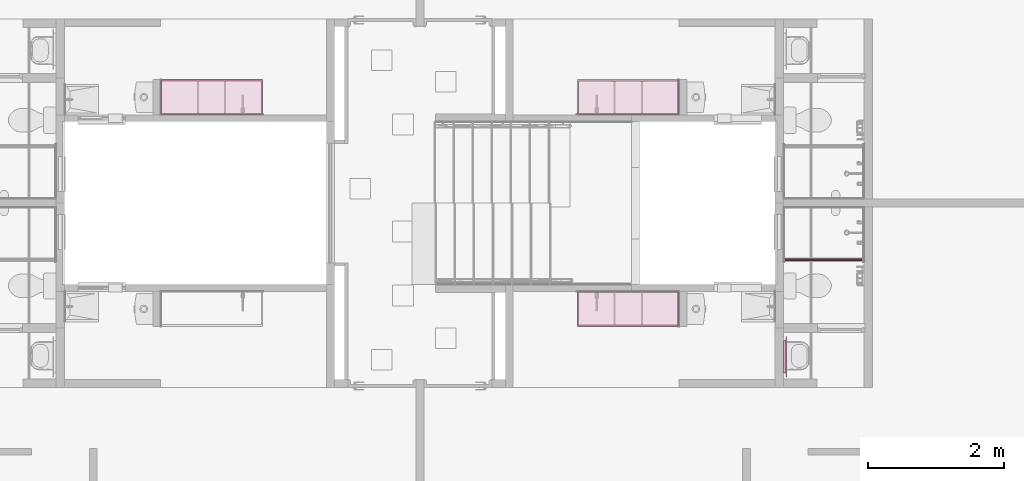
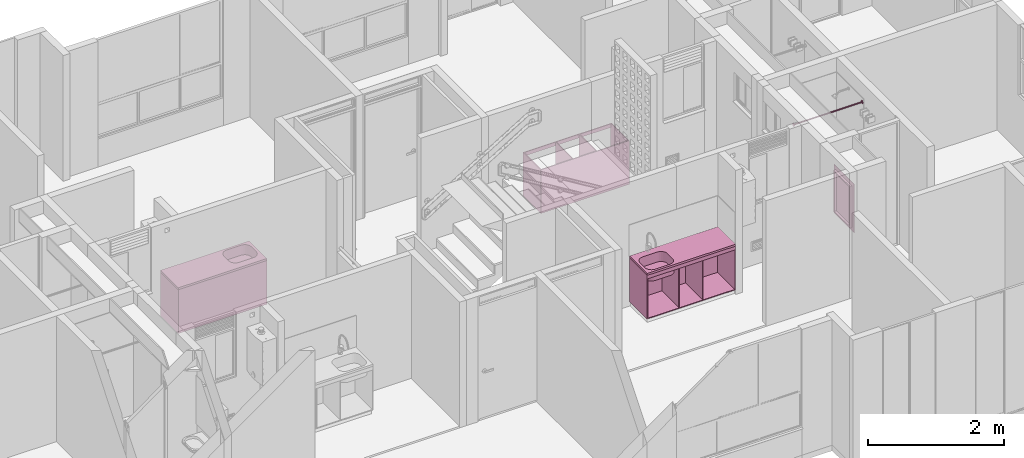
# One storey, part 43 of 48: 7 furniture elements.
"""IFC4 building model written with IfcOpenShell, lengths in metres."""

from ifc_helpers import new_model, entity, si_unit, converted_unit, derived_unit, direction, frame, origin, place, context, subcontext, project, spatial, arc, indexed_curve, outline, extrude, polygons, source, transform, mapped, material, constituent, constituent_set, type_object, type_shapes, element, save


model = new_model("IFC4")

# Units and contexts
model_context = context("Model", 3, precision=1e-05, world=origin(), true_north=direction((6.123031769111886e-17, 1.0)))
body_context = subcontext(model_context, "Body", "Model", "MODEL_VIEW")
ifc_project = project(units=[si_unit("LENGTHUNIT", "METRE"), si_unit("AREAUNIT", "SQUARE_METRE"), si_unit("VOLUMEUNIT", "CUBIC_METRE"), converted_unit("PLANEANGLEUNIT", "DEGREE", entity("IfcRatioMeasure", 0.017453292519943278), si_unit("PLANEANGLEUNIT", "RADIAN"), dimensions=[0, 0, 0, 0, 0, 0, 0]), si_unit("MASSUNIT", "GRAM", prefix="KILO"), derived_unit("MASSDENSITYUNIT", [(si_unit("MASSUNIT", "GRAM", prefix="KILO"), 1), (si_unit("LENGTHUNIT", "METRE"), -3)]), derived_unit("IONCONCENTRATIONUNIT", [(si_unit("MASSUNIT", "GRAM", prefix="KILO"), 1), (si_unit("LENGTHUNIT", "METRE"), -3)]), derived_unit("MOMENTOFINERTIAUNIT", [(si_unit("LENGTHUNIT", "METRE"), 4)]), si_unit("TIMEUNIT", "SECOND"), si_unit("FREQUENCYUNIT", "HERTZ"), si_unit("THERMODYNAMICTEMPERATUREUNIT", "DEGREE_CELSIUS"), derived_unit("THERMALTRANSMITTANCEUNIT", [(si_unit("MASSUNIT", "GRAM", prefix="KILO"), 1), (si_unit("THERMODYNAMICTEMPERATUREUNIT", "KELVIN"), -1), (si_unit("TIMEUNIT", "SECOND"), -3)]), derived_unit("THERMALCONDUCTANCEUNIT", [(si_unit("MASSUNIT", "GRAM", prefix="KILO"), 1), (si_unit("THERMODYNAMICTEMPERATUREUNIT", "KELVIN"), -1), (si_unit("TIMEUNIT", "SECOND"), -3), (si_unit("LENGTHUNIT", "METRE"), 1)]), derived_unit("VOLUMETRICFLOWRATEUNIT", [(si_unit("LENGTHUNIT", "METRE"), 3), (si_unit("TIMEUNIT", "SECOND"), -1)]), derived_unit("MASSFLOWRATEUNIT", [(si_unit("MASSUNIT", "GRAM", prefix="KILO"), 1), (si_unit("TIMEUNIT", "SECOND"), -1)]), derived_unit("ROTATIONALFREQUENCYUNIT", [(si_unit("TIMEUNIT", "SECOND"), -1)]), si_unit("ELECTRICCURRENTUNIT", "AMPERE"), si_unit("ELECTRICVOLTAGEUNIT", "VOLT"), si_unit("POWERUNIT", "WATT"), si_unit("FORCEUNIT", "NEWTON", prefix="KILO"), si_unit("ILLUMINANCEUNIT", "LUX"), si_unit("LUMINOUSFLUXUNIT", "LUMEN"), si_unit("LUMINOUSINTENSITYUNIT", "CANDELA"), derived_unit("USERDEFINED", [(si_unit("MASSUNIT", "GRAM", prefix="KILO"), -1), (si_unit("LENGTHUNIT", "METRE"), -2), (si_unit("TIMEUNIT", "SECOND"), 3), (si_unit("LUMINOUSFLUXUNIT", "LUMEN"), 1)]), derived_unit("USERDEFINED", [(si_unit("MASSUNIT", "GRAM", prefix="KILO"), 1), (si_unit("TIMEUNIT", "SECOND"), -3), (si_unit("LENGTHUNIT", "METRE"), 3), (si_unit("ELECTRICCURRENTUNIT", "AMPERE"), -2)]), derived_unit("SOUNDPOWERUNIT", [(si_unit("MASSUNIT", "GRAM", prefix="KILO"), 1), (si_unit("TIMEUNIT", "SECOND"), -3), (si_unit("LENGTHUNIT", "METRE"), 2)]), derived_unit("SOUNDPRESSUREUNIT", [(si_unit("MASSUNIT", "GRAM", prefix="KILO"), 1), (si_unit("LENGTHUNIT", "METRE"), -1), (si_unit("TIMEUNIT", "SECOND"), -2)]), derived_unit("LINEARVELOCITYUNIT", [(si_unit("LENGTHUNIT", "METRE"), 1), (si_unit("TIMEUNIT", "SECOND"), -1)]), si_unit("PRESSUREUNIT", "PASCAL"), derived_unit("USERDEFINED", [(si_unit("MASSUNIT", "GRAM", prefix="KILO"), 1), (si_unit("LENGTHUNIT", "METRE"), -2), (si_unit("TIMEUNIT", "SECOND"), -2)]), derived_unit("LINEARFORCEUNIT", [(si_unit("MASSUNIT", "GRAM", prefix="KILO"), 1), (si_unit("TIMEUNIT", "SECOND"), -2)]), derived_unit("PLANARFORCEUNIT", [(si_unit("MASSUNIT", "GRAM", prefix="KILO"), 1), (si_unit("LENGTHUNIT", "METRE"), -1), (si_unit("TIMEUNIT", "SECOND"), -2)]), derived_unit("SPECIFICHEATCAPACITYUNIT", [(si_unit("THERMODYNAMICTEMPERATUREUNIT", "KELVIN"), -1), (si_unit("LENGTHUNIT", "METRE"), 2), (si_unit("TIMEUNIT", "SECOND"), -2)]), derived_unit("HEATINGVALUEUNIT", [(si_unit("LENGTHUNIT", "METRE"), 2), (si_unit("TIMEUNIT", "SECOND"), -2)]), derived_unit("VAPORPERMEABILITYUNIT", [(si_unit("LENGTHUNIT", "METRE"), -1), (si_unit("TIMEUNIT", "SECOND"), 1)]), derived_unit("DYNAMICVISCOSITYUNIT", [(si_unit("MASSUNIT", "GRAM", prefix="KILO"), 1), (si_unit("TIMEUNIT", "SECOND"), -1), (si_unit("LENGTHUNIT", "METRE"), -1)]), derived_unit("THERMALEXPANSIONCOEFFICIENTUNIT", [(si_unit("THERMODYNAMICTEMPERATUREUNIT", "KELVIN"), -1)]), derived_unit("MODULUSOFELASTICITYUNIT", [(si_unit("MASSUNIT", "GRAM", prefix="KILO"), 1), (si_unit("LENGTHUNIT", "METRE"), -1), (si_unit("TIMEUNIT", "SECOND"), -2)]), derived_unit("ISOTHERMALMOISTURECAPACITYUNIT", [(si_unit("LENGTHUNIT", "METRE"), 3), (si_unit("MASSUNIT", "GRAM", prefix="KILO"), -1)]), derived_unit("MOISTUREDIFFUSIVITYUNIT", [(si_unit("TIMEUNIT", "SECOND"), -1), (si_unit("LENGTHUNIT", "METRE"), 2)])], contexts=[model_context])

# Site, building, storey
site_placement = place(None, origin())
site = spatial("IfcSite", under=ifc_project, at=site_placement, Name="Default", CompositionType="ELEMENT")
building_placement = place(site_placement, origin())
building = spatial("IfcBuilding", under=site, at=building_placement, CompositionType="ELEMENT")
storey_placement = place(building_placement, frame((0.0, 0.0, 9.40000000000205)))
storey = spatial("IfcBuildingStorey", under=building, at=storey_placement, Name="Nivel 5", CompositionType="ELEMENT", Elevation=9.40000000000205)

# Furniture
ifc_material_1 = material(Name="Aluminio", Category="Materials")
ifc_constituent_1 = constituent(ifc_material_1, Name="Aluminio", Category="Materials")
ifc_material_2 = material(Name="ESPEJO", Category="Materials")
ifc_constituent_2 = constituent(ifc_material_2, Name="ESPEJO", Category="Materials")
ifc_constituent_set_1 = constituent_set(constituents=[ifc_constituent_1, ifc_constituent_2])
ifc_constituent_3 = constituent(ifc_material_1, Name="Aluminio", Category="Materials")
ifc_constituent_4 = constituent(ifc_material_2, Name="ESPEJO", Category="Materials")
ifc_constituent_set_2 = constituent_set(constituents=[ifc_constituent_3, ifc_constituent_4])
furniture_type_1 = type_object("IfcFurnitureType", Name="E2050 - Espejo:E2050 - 0.60m x 0.87m - Espejo", AssemblyPlace="NOTDEFINED", PredefinedType="NOTDEFINED", material=ifc_constituent_set_2)
shared_shape_1 = source(origin(), body_context, "Body", "SweptSolid", [
    extrude(outline(indexed_curve([(-0.3749999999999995, -0.2399999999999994), (0.37499999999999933, -0.23999999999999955), (0.3749999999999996, 0.2399999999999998), (-0.3749999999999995, 0.23999999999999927), (-0.3749999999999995, -0.2399999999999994)], self_intersect=False), holes=[indexed_curve([(-0.34999999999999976, 0.21499999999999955), (0.34999999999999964, 0.21499999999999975), (0.34999999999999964, -0.21499999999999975), (-0.34999999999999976, -0.21499999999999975), (-0.34999999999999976, 0.21499999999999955)], self_intersect=False)]), frame((0.12499999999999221, -0.09999999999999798, 1.485), z_axis=(0.0, 1.0, 0.0), x_axis=(0.0, 0.0, -1.0)), (0.0, 0.0, 1.0), 0.037500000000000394),
    extrude(outline(indexed_curve([(-0.30000000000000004, -0.00350000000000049), (0.30000000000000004, -0.00350000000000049), (0.30000000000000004, 0.00350000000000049), (-0.30000000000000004, 0.00350000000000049), (-0.30000000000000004, -0.00350000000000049)], self_intersect=False)), frame((0.1249999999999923, -0.10350000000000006, 1.05), z_axis=(0.0, 0.0, 1.0), x_axis=(-1.0, 0.0, 0.0)), (0.0, 0.0, 1.0), 0.87),
])
type_shapes(furniture_type_1, [shared_shape_1])
furniture_1_placement = place(storey_placement, frame((14.620000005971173, -8.815000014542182, -0.020000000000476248), z_axis=(0.0, 0.0, 1.0), x_axis=(0.0, 1.0, 0.0)))
element("IfcFurniture", 1, at=furniture_1_placement, inside=storey, type_object=furniture_type_1, material=ifc_constituent_set_1, Name="E2050 - Espejo:E2050 - 0.60m x 0.87m - Espejo", ObjectType="E2050 - Espejo:E2050 - 0.60m x 0.87m - Espejo", PredefinedType="NOTDEFINED", context=body_context, shape_type="MappedRepresentation", body=[
    mapped(shared_shape_1, transform((0.0, 0.0, 0.0), scale=1.0)),
])

# Space
space_1_placement = place(storey_placement, origin())
space_1 = spatial("IfcSpace", under=storey, at=space_1_placement, Name="283", CompositionType="ELEMENT", PredefinedType="SPACE")

# Furniture
ifc_material_3 = material(Name="<Unnamed>")
furniture_type_2 = type_object("IfcFurnitureType", Name="Barra baño:E2050- Barra Baño- Acero inoxidable", AssemblyPlace="NOTDEFINED", PredefinedType="NOTDEFINED", material=ifc_material_3)
shared_shape_2 = source(origin(), body_context, "Body", "SweptSolid", [
    extrude(outline(indexed_curve([(-0.025, 2.707167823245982e-16), (-2.9325041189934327e-16, -0.025), (0.025, 0.0), (7.924642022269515e-17, 0.025)], segments=[arc(1, 2, 3), arc(3, 4, 1)], self_intersect=False)), frame((-1.1599989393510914, 0.0, 1.8000000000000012), z_axis=(1.0, 0.0, 0.0), x_axis=(0.0, -1.0, 0.0)), (0.0, 0.0, 1.0), 0.005000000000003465),
    extrude(outline(indexed_curve([(-0.03, 2.707167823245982e-16), (-3.2525514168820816e-16, -0.029999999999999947), (0.03, 0.0), (9.509570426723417e-17, 0.029999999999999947)], segments=[arc(1, 2, 3), arc(3, 4, 1)], self_intersect=False)), frame((-1.164998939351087, 0.0, 1.8000000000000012), z_axis=(1.0, 0.0, 0.0), x_axis=(0.0, -1.0, 0.0)), (0.0, 0.0, 1.0), 0.0049999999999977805),
    extrude(outline(indexed_curve([(-0.0125, 0.0), (-8.001182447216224e-17, -0.012499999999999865), (0.0125, 0.0), (3.9623210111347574e-17, 0.012499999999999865)], segments=[arc(1, 2, 3), arc(3, 4, 1)], self_intersect=False)), frame((-1.1549989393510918, 0.0, 1.7999999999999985), z_axis=(1.0, 0.0, 0.0), x_axis=(0.0, -1.0, 0.0)), (0.0, 0.0, 1.0), 1.149998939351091),
    extrude(outline(indexed_curve([(-0.025, 0.0), (-1.600236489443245e-16, -0.025000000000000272), (0.025, 0.0), (-5.398034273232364e-17, 0.02499999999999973)], segments=[arc(1, 2, 3), arc(3, 4, 1)], self_intersect=False)), frame((-0.005000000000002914, 0.0, 1.7999999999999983), z_axis=(1.0, 0.0, 0.0), x_axis=(0.0, -1.0, 0.0)), (0.0, 0.0, 1.0), 0.005000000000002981),
    extrude(outline(indexed_curve([(-0.03, 0.0), (-1.9202837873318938e-16, -0.030000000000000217), (0.03, 0.0), (-3.813105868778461e-17, 0.029999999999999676)], segments=[arc(1, 2, 3), arc(3, 4, 1)], self_intersect=False)), frame((0.0, 0.0, 1.7999999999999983), z_axis=(1.0, 0.0, 0.0), x_axis=(0.0, -1.0, 0.0)), (0.0, 0.0, 1.0), 0.00499999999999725),
])
type_shapes(furniture_type_2, [shared_shape_2])
furniture_2_placement = place(space_1_placement, frame((14.692500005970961, -7.260000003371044, 0.1299999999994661), z_axis=(0.0, 0.0, 1.0), x_axis=(-1.0, 0.0, 0.0)))
element("IfcFurniture", 2, at=furniture_2_placement, inside=space_1, type_object=furniture_type_2, material=ifc_material_3, Name="Barra baño:E2050- Barra Baño- Acero inoxidable", ObjectType="Barra baño:E2050- Barra Baño- Acero inoxidable", PredefinedType="NOTDEFINED", context=body_context, shape_type="MappedRepresentation", body=[
    mapped(shared_shape_2, transform((0.0, 0.0, 0.0), scale=1.0)),
])

# Space
space_2_placement = place(storey_placement, origin())
space_2 = spatial("IfcSpace", under=storey, at=space_2_placement, Name="279", CompositionType="ELEMENT", PredefinedType="SPACE")

# Furniture
ifc_material_4 = material(Name="mueble cocina", Category="Materials")
furniture_type_3 = type_object("IfcFurnitureType", Name="E2010 - Mueble bajo de cocina - Madera:E2010 - 1.50 x 0.52 - Mueble bajo de cocina - Madera", AssemblyPlace="NOTDEFINED", PredefinedType="NOTDEFINED", material=ifc_material_4)
shared_shape_3 = source(origin(), body_context, "Body", "SweptSolid", [
    extrude(outline(indexed_curve([(-0.007500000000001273, -0.7349999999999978), (0.007499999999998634, -0.7349999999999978), (0.007500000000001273, 0.7349999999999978), (-0.007499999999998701, 0.7349999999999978), (-0.007500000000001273, -0.7349999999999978)], self_intersect=False)), frame((0.04470032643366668, -0.5125000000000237, 0.8149999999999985), z_axis=(0.0, 0.0, 1.0), x_axis=(0.0, -1.0, 0.0)), (0.0, 0.0, 1.0), 0.06500000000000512),
    extrude(outline(indexed_curve([(-0.2600000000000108, -0.7499999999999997), (0.260000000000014, -0.7499999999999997), (0.2600000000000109, 0.7500000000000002), (-0.2600000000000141, 0.7499999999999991), (-0.2600000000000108, -0.7499999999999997)], self_intersect=False)), frame((0.04470032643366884, -0.2600000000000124, 0.09500000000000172), z_axis=(0.0, 0.0, 1.0), x_axis=(0.0, -1.0, 0.0)), (0.0, 0.0, 1.0), 0.0149999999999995),
    extrude(outline(indexed_curve([(-0.007500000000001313, -0.7500000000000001), (0.007499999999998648, -0.7500000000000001), (0.0075000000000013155, 0.7500000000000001), (-0.007499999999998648, 0.7500000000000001), (-0.007500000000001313, -0.7500000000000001)], self_intersect=False)), frame((0.04470032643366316, -0.00749999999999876, 0.11000000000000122), z_axis=(0.0, 0.0, 1.0), x_axis=(0.0, -1.0, 0.0)), (0.0, 0.0, 1.0), 0.7700000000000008),
    extrude(outline(indexed_curve([(-0.007500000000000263, -0.24500000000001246), (0.007499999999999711, -0.24500000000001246), (0.007500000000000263, 0.24500000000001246), (-0.007499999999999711, 0.24500000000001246), (-0.007500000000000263, -0.24500000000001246)], self_intersect=False)), frame((-0.1552996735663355, -0.2600000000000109, 0.11000000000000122), z_axis=(0.0, 0.0, 1.0), x_axis=(-1.0, 0.0, 0.0)), (0.0, 0.0, 1.0), 0.7700000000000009),
    extrude(outline(indexed_curve([(-0.007499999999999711, -0.24500000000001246), (0.007500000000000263, -0.24500000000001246), (0.007499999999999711, 0.24500000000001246), (-0.007500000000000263, 0.24500000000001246), (-0.007499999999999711, -0.24500000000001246)], self_intersect=False)), frame((0.24470032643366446, -0.26000000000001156, 0.11000000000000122), z_axis=(0.0, 0.0, 1.0), x_axis=(-1.0, 0.0, 0.0)), (0.0, 0.0, 1.0), 0.7700000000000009),
    extrude(outline(indexed_curve([(-0.00750000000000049, -0.2525000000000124), (0.0074999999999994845, -0.25250000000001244), (0.007500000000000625, 0.2525000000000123), (-0.007499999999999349, 0.2525000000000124), (-0.00750000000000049, -0.2525000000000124)], self_intersect=False)), frame((0.7872003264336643, -0.2675000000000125, 0.11000000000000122), z_axis=(0.0, 0.0, 1.0), x_axis=(-1.0, 0.0, 0.0)), (0.0, 0.0, 1.0), 0.7700000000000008),
    extrude(outline(indexed_curve([(-0.007499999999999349, -0.2525000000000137), (0.007500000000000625, -0.2525000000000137), (0.0074999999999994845, 0.25250000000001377), (-0.00750000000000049, 0.2525000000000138), (-0.007499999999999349, -0.2525000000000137)], self_intersect=False)), frame((-0.697799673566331, -0.2675000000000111, 0.11000000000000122), z_axis=(0.0, 0.0, 1.0), x_axis=(-1.0, 0.0, 0.0)), (0.0, 0.0, 1.0), 0.7700000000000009),
])
type_shapes(furniture_type_3, [shared_shape_3])
furniture_3_placement = place(space_2_placement, frame((12.437200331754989, -5.125000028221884, 0.014999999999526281), z_axis=(0.0, 0.0, 1.0), x_axis=(-1.0, 0.0, 0.0)))
element("IfcFurniture", 3, at=furniture_3_placement, inside=space_2, type_object=furniture_type_3, material=ifc_material_4, Name="E2010 - Mueble bajo de cocina - Madera:E2010 - 1.50 x 0.52 - Mueble bajo de cocina - Madera", ObjectType="E2010 - Mueble bajo de cocina - Madera:E2010 - 1.50 x 0.52 - Mueble bajo de cocina - Madera", PredefinedType="NOTDEFINED", context=body_context, shape_type="MappedRepresentation", body=[
    mapped(shared_shape_3, transform((0.0, 0.0, 0.0), scale=1.0)),
])

# Space
space_3_placement = place(storey_placement, origin())
space_3 = spatial("IfcSpace", under=storey, at=space_3_placement, Name="264", CompositionType="ELEMENT", PredefinedType="SPACE")

# Furniture
furniture_type_4 = type_object("IfcFurnitureType", Name="E2010 - Mueble bajo de cocina - Madera:E2010 - 1.50 x 0.52 - Mueble bajo de cocina - Madera", AssemblyPlace="NOTDEFINED", PredefinedType="NOTDEFINED", material=ifc_material_4)
shared_shape_4 = source(origin(), body_context, "Body", "SweptSolid", [
    extrude(outline(indexed_curve([(-0.7349999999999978, -0.007499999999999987), (0.7349999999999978, -0.007499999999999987), (0.7349999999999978, 0.007499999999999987), (-0.7349999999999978, 0.007499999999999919), (-0.7349999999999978, -0.007499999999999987)], self_intersect=False)), frame((0.04470032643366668, 0.5125000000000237, 0.8149999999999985)), (0.0, 0.0, 1.0), 0.06500000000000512),
    extrude(outline(indexed_curve([(-0.7499999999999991, -0.26000000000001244), (0.7499999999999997, -0.26000000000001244), (0.7499999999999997, 0.26000000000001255), (-0.7500000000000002, 0.26000000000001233), (-0.7499999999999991, -0.26000000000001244)], self_intersect=False)), frame((0.04470032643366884, 0.26000000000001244, 0.09500000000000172)), (0.0, 0.0, 1.0), 0.0149999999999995),
    extrude(outline(indexed_curve([(-0.7500000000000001, -0.007499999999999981), (0.7500000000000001, -0.007499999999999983), (0.7500000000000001, 0.007499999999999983), (-0.7500000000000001, 0.007499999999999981), (-0.7500000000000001, -0.007499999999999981)], self_intersect=False)), frame((0.04470032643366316, 0.00749999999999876, 0.11000000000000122)), (0.0, 0.0, 1.0), 0.7700000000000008),
    extrude(outline(indexed_curve([(-0.24500000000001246, -0.007499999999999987), (0.24500000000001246, -0.007499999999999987), (0.24500000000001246, 0.007499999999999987), (-0.24500000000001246, 0.007499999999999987), (-0.24500000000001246, -0.007499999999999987)], self_intersect=False)), frame((-0.1552996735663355, 0.2600000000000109, 0.11000000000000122), z_axis=(0.0, 0.0, 1.0), x_axis=(0.0, 1.0, 0.0)), (0.0, 0.0, 1.0), 0.7700000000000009),
    extrude(outline(indexed_curve([(-0.24500000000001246, -0.007499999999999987), (0.24500000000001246, -0.007499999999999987), (0.24500000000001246, 0.007499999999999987), (-0.24500000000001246, 0.007499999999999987), (-0.24500000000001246, -0.007499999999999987)], self_intersect=False)), frame((0.24470032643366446, 0.26000000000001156, 0.11000000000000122), z_axis=(0.0, 0.0, 1.0), x_axis=(0.0, 1.0, 0.0)), (0.0, 0.0, 1.0), 0.7700000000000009),
    extrude(outline(indexed_curve([(-0.25250000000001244, -0.007500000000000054), (0.2525000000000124, -0.007500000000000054), (0.2525000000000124, 0.007499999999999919), (-0.2525000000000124, 0.007499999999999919), (-0.25250000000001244, -0.007500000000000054)], self_intersect=False)), frame((0.7872003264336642, 0.2675000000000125, 0.11000000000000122), z_axis=(0.0, 0.0, 1.0), x_axis=(0.0, 1.0, 0.0)), (0.0, 0.0, 1.0), 0.7700000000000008),
    extrude(outline(indexed_curve([(-0.2525000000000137, -0.007500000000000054), (0.2525000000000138, -0.007500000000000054), (0.2525000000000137, 0.007499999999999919), (-0.2525000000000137, 0.007499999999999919), (-0.2525000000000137, -0.007500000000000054)], self_intersect=False)), frame((-0.6977996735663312, 0.2675000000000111, 0.11000000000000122), z_axis=(0.0, 0.0, 1.0), x_axis=(0.0, 1.0, 0.0)), (0.0, 0.0, 1.0), 0.7700000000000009),
])
type_shapes(furniture_type_4, [shared_shape_4])
furniture_4_placement = place(space_3_placement, frame((6.207799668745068, -5.1250000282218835, 0.014999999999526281)))
element("IfcFurniture", 4, at=furniture_4_placement, inside=space_3, type_object=furniture_type_4, material=ifc_material_4, Name="E2010 - Mueble bajo de cocina - Madera:E2010 - 1.50 x 0.52 - Mueble bajo de cocina - Madera", ObjectType="E2010 - Mueble bajo de cocina - Madera:E2010 - 1.50 x 0.52 - Mueble bajo de cocina - Madera", PredefinedType="NOTDEFINED", context=body_context, shape_type="MappedRepresentation", body=[
    mapped(shared_shape_4, transform((0.0, 0.0, 0.0), scale=1.0)),
])

# Space
space_4_placement = place(storey_placement, origin())
space_4 = spatial("IfcSpace", under=storey, at=space_4_placement, Name="286", CompositionType="ELEMENT", PredefinedType="SPACE")

# Furniture
furniture_5_placement = place(space_4_placement, frame((12.437200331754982, -7.725000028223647, 0.014999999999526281), z_axis=(0.0, 0.0, 1.0), x_axis=(-1.0, 0.0, 0.0)))
element("IfcFurniture", 5, at=furniture_5_placement, inside=space_4, type_object=furniture_type_4, material=ifc_material_4, Name="E2010 - Mueble bajo de cocina - Madera:E2010 - 1.50 x 0.52 - Mueble bajo de cocina - Madera", ObjectType="E2010 - Mueble bajo de cocina - Madera:E2010 - 1.50 x 0.52 - Mueble bajo de cocina - Madera", PredefinedType="NOTDEFINED", context=body_context, shape_type="MappedRepresentation", body=[
    mapped(shared_shape_4, transform((0.0, 0.0, 0.0), scale=1.0)),
])
ifc_material_5 = material(Name="Mesón cocina", Category="Materials")
furniture_type_5 = type_object("IfcFurnitureType", Name="E1060 - Meson Socoda Radiante - 1.50 X 0.52 - Acero inoxidable:E1060 - 1.50 x 0.52 - Meson de cocina, lavadero y estufa - Acero inoxidable", AssemblyPlace="NOTDEFINED", PredefinedType="NOTDEFINED", material=ifc_material_5)
shared_shape_5 = source(origin(), body_context, "Body", "Tessellation", [
    polygons([(0.7500000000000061, -0.2600000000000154, 0.03499999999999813), (0.7500000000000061, 0.2600000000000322, 0.03499999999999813), (-0.7499999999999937, 0.2600000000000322, 0.03499999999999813), (-0.7499999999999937, -0.2600000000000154, 0.03499999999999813), (0.23610399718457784, -0.03077661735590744, 0.03499999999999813), (0.23610399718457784, 0.11422338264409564, 0.03499999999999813), (0.23985215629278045, 0.14269347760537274, 0.03499999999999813), (0.2508412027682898, 0.1692233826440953, 0.03499999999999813), (0.2683222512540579, 0.1920051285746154, 0.03499999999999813), (0.2911039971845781, 0.20948617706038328, 0.03499999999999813), (0.31763390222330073, 0.22047522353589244, 0.03499999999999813), (0.3461039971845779, 0.22422338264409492, 0.03499999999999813), (0.5934732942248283, 0.2242233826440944, 0.03499999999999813), (0.6219433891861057, 0.22047522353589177, 0.03499999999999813), (0.6484732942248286, 0.20948617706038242, 0.03499999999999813), (0.6712550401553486, 0.1920051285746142, 0.03499999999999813), (0.6887360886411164, 0.1692233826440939, 0.03499999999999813), (0.6997251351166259, 0.14269347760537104, 0.03499999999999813), (0.703473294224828, 0.11422338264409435, 0.03499999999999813), (0.7034732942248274, -0.030776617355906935, 0.03499999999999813), (0.6997251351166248, -0.05924671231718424, 0.03499999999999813), (0.6887360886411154, -0.08577661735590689, 0.03499999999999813), (0.6712550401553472, -0.10855836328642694, 0.03499999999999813), (0.6484732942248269, -0.1260394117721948, 0.03499999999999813), (0.6219433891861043, -0.13702845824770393, 0.03499999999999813), (0.5934732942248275, -0.14077661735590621, 0.03499999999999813), (0.3461039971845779, -0.14077661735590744, 0.03499999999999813), (0.31763390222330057, -0.13702845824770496, 0.03499999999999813), (0.2911039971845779, -0.1260394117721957, 0.03499999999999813), (0.2683222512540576, -0.10855836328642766, 0.03499999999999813), (0.2508412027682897, -0.08577661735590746, 0.03499999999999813), (0.23985215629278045, -0.05924671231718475, 0.03499999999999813), (0.7500000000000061, -0.2600000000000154, -1.8678232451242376e-15), (-0.7499999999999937, -0.2600000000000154, -1.8678232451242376e-15), (-0.7499999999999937, 0.2600000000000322, -1.8678232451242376e-15), (0.7500000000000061, 0.2600000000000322, -1.8678232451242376e-15), (0.5934732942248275, -0.15077661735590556, -1.8678232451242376e-15), (0.62453157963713, -0.1466877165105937, -1.8678232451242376e-15), (0.6534732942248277, -0.13469966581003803, -1.8678232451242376e-15), (0.6783261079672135, -0.11562943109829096, -1.8678232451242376e-15), (0.6973963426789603, -0.09077661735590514, -1.8678232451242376e-15), (0.7093843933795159, -0.061834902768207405, -1.8678232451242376e-15), (0.7134732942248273, -0.030776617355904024, -1.8678232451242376e-15), (0.7134732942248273, 0.11422338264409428, -1.8678232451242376e-15), (0.7093843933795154, 0.14528166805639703, -1.8678232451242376e-15), (0.6973963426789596, 0.17422338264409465, -1.8678232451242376e-15), (0.6783261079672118, 0.19907619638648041, -1.8678232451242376e-15), (0.6534732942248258, 0.21814643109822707, -1.8678232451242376e-15), (0.6245315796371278, 0.2301344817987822, -1.8678232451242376e-15), (0.5934732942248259, 0.23422338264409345, -1.8678232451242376e-15), (0.34610399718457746, 0.23422338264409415, -1.8678232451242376e-15), (0.31504571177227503, 0.2301344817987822, -1.8678232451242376e-15), (0.2861039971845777, 0.2181464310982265, -1.8678232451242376e-15), (0.2612511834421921, 0.19907619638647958, -1.8678232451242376e-15), (0.24218094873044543, 0.17422338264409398, -1.8678232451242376e-15), (0.2301928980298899, 0.14528166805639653, -1.8678232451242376e-15), (0.22610399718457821, 0.11422338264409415, -1.8678232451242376e-15), (0.22610399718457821, -0.030776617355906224, -1.8678232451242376e-15), (0.23019289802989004, -0.06183490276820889, -1.8678232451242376e-15), (0.2421809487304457, -0.09077661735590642, -1.8678232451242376e-15), (0.2612511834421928, -0.11562943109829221, -1.8678232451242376e-15), (0.2861039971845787, -0.13469966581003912, -1.8678232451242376e-15), (0.31504571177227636, -0.1466877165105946, -1.8678232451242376e-15), (0.34610399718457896, -0.1507766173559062, -1.8678232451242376e-15), (0.5934732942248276, -0.1507766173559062, -0.16000000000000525), (0.34610399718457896, -0.1507766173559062, -0.16000000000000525), (0.31504571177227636, -0.1466877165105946, -0.16000000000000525), (0.2861039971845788, -0.13469966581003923, -0.16000000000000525), (0.261251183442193, -0.11562943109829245, -0.16000000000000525), (0.2421809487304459, -0.09077661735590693, -0.16000000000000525), (0.23019289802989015, -0.06183490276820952, -0.16000000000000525), (0.22610399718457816, -0.030776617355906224, -0.16000000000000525), (0.22610399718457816, 0.11422338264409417, -0.16000000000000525), (0.2301928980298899, 0.14528166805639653, -0.16000000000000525), (0.24218094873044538, 0.17422338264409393, -0.16000000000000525), (0.26125118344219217, 0.19907619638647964, -0.16000000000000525), (0.28610399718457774, 0.21814643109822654, -0.16000000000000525), (0.3150457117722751, 0.23013448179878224, -0.16000000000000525), (0.3461039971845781, 0.23422338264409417, -0.16000000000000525), (0.5934732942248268, 0.2342233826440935, -0.16000000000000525), (0.6245315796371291, 0.2301344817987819, -0.16000000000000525), (0.6534732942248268, 0.21814643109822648, -0.16000000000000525), (0.6783261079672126, 0.19907619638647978, -0.16000000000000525), (0.6973963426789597, 0.1742233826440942, -0.16000000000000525), (0.7093843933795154, 0.1452816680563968, -0.16000000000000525), (0.7134732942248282, 0.11422338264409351, -0.16000000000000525), (0.7134732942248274, -0.03077661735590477, -0.16000000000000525), (0.7093843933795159, -0.06183490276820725, -0.16000000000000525), (0.6973963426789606, -0.0907766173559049, -0.16000000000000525), (0.6783261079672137, -0.1156294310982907, -0.16000000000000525), (0.6534732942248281, -0.13469966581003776, -0.16000000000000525), (0.6245315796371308, -0.1466877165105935, -0.16000000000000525), (0.3461039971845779, -0.1407766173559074, -0.14475899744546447), (0.5934732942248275, -0.14077661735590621, -0.14475899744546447), (0.6219433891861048, -0.13702845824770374, -0.14475899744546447), (0.6484732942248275, -0.1260394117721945, -0.14475899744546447), (0.6712550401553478, -0.10855836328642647, -0.14475899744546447), (0.6887360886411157, -0.08577661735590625, -0.14475899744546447), (0.699725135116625, -0.05924671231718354, -0.14475899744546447), (0.7034732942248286, -0.030776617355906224, -0.14475899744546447), (0.7034732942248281, 0.11422338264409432, -0.14475899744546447), (0.6997251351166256, 0.14269347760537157, -0.14475899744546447), (0.6887360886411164, 0.16922338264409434, -0.14475899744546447), (0.6712550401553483, 0.19200512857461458, -0.14475899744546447), (0.6484732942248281, 0.20948617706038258, -0.14475899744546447), (0.6219433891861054, 0.22047522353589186, -0.14475899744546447), (0.5934732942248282, 0.22422338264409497, -0.14475899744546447), (0.3461039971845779, 0.2242233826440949, -0.14475899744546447), (0.31763390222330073, 0.22047522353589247, -0.14475899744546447), (0.2911039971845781, 0.20948617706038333, -0.14475899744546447), (0.2683222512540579, 0.19200512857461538, -0.14475899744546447), (0.25084120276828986, 0.16922338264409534, -0.14475899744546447), (0.23985215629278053, 0.14269347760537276, -0.14475899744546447), (0.23610399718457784, 0.11422338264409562, -0.14475899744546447), (0.23610399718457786, -0.030776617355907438, -0.14475899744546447), (0.2398521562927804, -0.05924671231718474, -0.14475899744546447), (0.25084120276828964, -0.08577661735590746, -0.14475899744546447), (0.2683222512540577, -0.10855836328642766, -0.14475899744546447), (0.2911039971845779, -0.1260394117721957, -0.14475899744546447), (0.31763390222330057, -0.13702845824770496, -0.14475899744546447)], [[[1, 2, 3, 4], [21, 22, 23, 24, 25, 26, 27, 28, 29, 30, 31, 32, 5, 6, 7, 8, 9, 10, 11, 12, 13, 14, 15, 16, 17, 18, 19, 20]], [[94, 95, 96, 97, 98, 99, 100, 101, 102, 103, 104, 105, 106, 107, 108, 109, 110, 111, 112, 113, 114, 115, 116, 117, 118, 119, 120, 93]], [[34, 35, 36, 33], [59, 60, 61, 62, 63, 64, 37, 38, 39, 40, 41, 42, 43, 44, 45, 46, 47, 48, 49, 50, 51, 52, 53, 54, 55, 56, 57, 58]], [[71, 72, 73, 74, 75, 76, 77, 78, 79, 80, 81, 82, 83, 84, 85, 86, 87, 88, 89, 90, 91, 92, 65, 66, 67, 68, 69, 70]], [[34, 33, 1, 4]], [[65, 37, 64, 66]], [[13, 12, 108, 107]], [[34, 4, 3, 35]], [[72, 58, 57, 73]], [[20, 19, 101, 100]], [[36, 35, 3, 2]], [[79, 51, 50, 80]], [[27, 26, 94, 93]], [[36, 2, 1, 33]], [[86, 44, 43, 87]], [[6, 5, 115, 114]], [[68, 67, 63, 62]], [[14, 106, 105, 15]], [[69, 68, 62, 61]], [[15, 105, 104, 16]], [[64, 63, 67, 66]], [[107, 106, 14, 13]], [[71, 70, 60, 59]], [[17, 103, 102, 18]], [[72, 71, 59, 58]], [[18, 102, 101, 19]], [[60, 70, 69, 61]], [[16, 104, 103, 17]], [[75, 74, 56, 55]], [[99, 98, 22, 21]], [[76, 75, 55, 54]], [[98, 97, 23, 22]], [[57, 56, 74, 73]], [[21, 20, 100, 99]], [[78, 77, 53, 52]], [[24, 96, 95, 25]], [[79, 78, 52, 51]], [[25, 95, 94, 26]], [[53, 77, 76, 54]], [[23, 97, 96, 24]], [[82, 81, 49, 48]], [[28, 120, 119, 29]], [[83, 82, 48, 47]], [[29, 119, 118, 30]], [[50, 49, 81, 80]], [[93, 120, 28, 27]], [[85, 84, 46, 45]], [[31, 117, 116, 32]], [[86, 85, 45, 44]], [[32, 116, 115, 5]], [[46, 84, 83, 47]], [[30, 118, 117, 31]], [[89, 88, 42, 41]], [[7, 113, 112, 8]], [[90, 89, 41, 40]], [[8, 112, 111, 9]], [[43, 42, 88, 87]], [[114, 113, 7, 6]], [[92, 91, 39, 38]], [[10, 110, 109, 11]], [[65, 92, 38, 37]], [[11, 109, 108, 12]], [[39, 91, 90, 40]], [[9, 111, 110, 10]]], closed=True),
])
type_shapes(furniture_type_5, [shared_shape_5])
furniture_6_placement = place(space_3_placement, frame((6.252499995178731, -4.865000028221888, 0.8949999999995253)))
element("IfcFurniture", 6, at=furniture_6_placement, inside=space_3, type_object=furniture_type_5, material=ifc_material_5, Name="E1060 - Meson Socoda Radiante - 1.50 X 0.52 - Acero inoxidable:E1060 - 1.50 x 0.52 - Meson de cocina, lavadero y estufa - Acero inoxidable", ObjectType="E1060 - Meson Socoda Radiante - 1.50 X 0.52 - Acero inoxidable:E1060 - 1.50 x 0.52 - Meson de cocina, lavadero y estufa - Acero inoxidable", PredefinedType="NOTDEFINED", context=body_context, shape_type="MappedRepresentation", body=[
    mapped(shared_shape_5, transform((0.0, 0.0, 0.0), scale=1.0)),
])
furniture_7_placement = place(space_4_placement, frame((12.392500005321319, -7.9850000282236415, 0.8949999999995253), z_axis=(0.0, 0.0, 1.0), x_axis=(-1.0, 0.0, 0.0)))
element("IfcFurniture", 7, at=furniture_7_placement, inside=space_4, type_object=furniture_type_5, material=ifc_material_5, Name="E1060 - Meson Socoda Radiante - 1.50 X 0.52 - Acero inoxidable:E1060 - 1.50 x 0.52 - Meson de cocina, lavadero y estufa - Acero inoxidable", ObjectType="E1060 - Meson Socoda Radiante - 1.50 X 0.52 - Acero inoxidable:E1060 - 1.50 x 0.52 - Meson de cocina, lavadero y estufa - Acero inoxidable", PredefinedType="NOTDEFINED", context=body_context, shape_type="MappedRepresentation", body=[
    mapped(shared_shape_5, transform((0.0, 0.0, 0.0), scale=1.0)),
])

save(model, "model.ifc")
